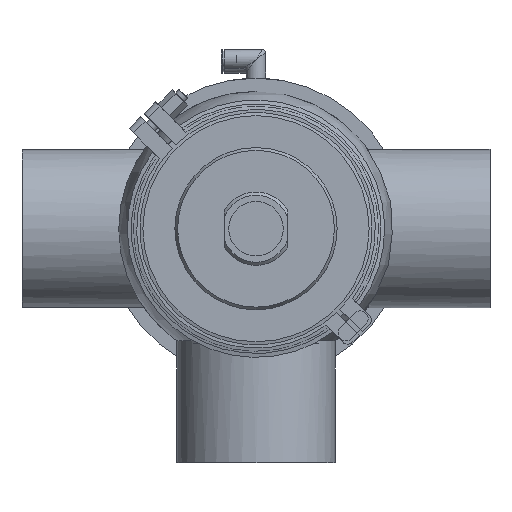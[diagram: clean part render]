
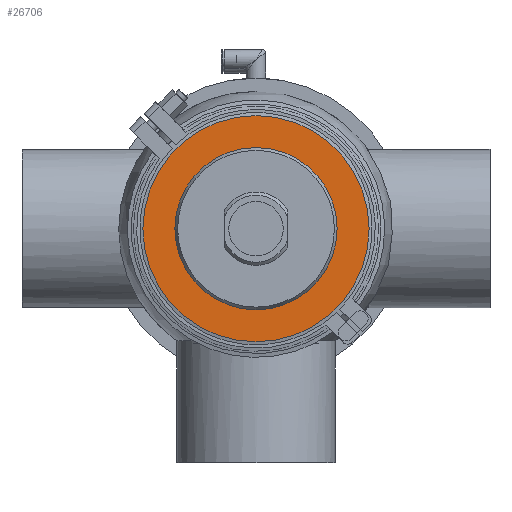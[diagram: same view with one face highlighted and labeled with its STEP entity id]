
A CAD part, front view. The second image highlights one B-rep face of the part: STEP entity #26706.
In plain terms, the highlighted planar face has unit normal (0, -1, 0).
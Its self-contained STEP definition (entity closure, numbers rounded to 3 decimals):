
#813 = EDGE_CURVE ( 'NONE', #55833, #55833, #18572, .T. ) ;
#953 = FACE_OUTER_BOUND ( 'NONE', #11094, .T. ) ;
#2206 = FACE_BOUND ( 'NONE', #6118, .T. ) ;
#2372 = CARTESIAN_POINT ( 'NONE',  ( 0., -13., 0. ) ) ;
#6118 = EDGE_LOOP ( 'NONE', ( #43482 ) ) ;
#7333 = AXIS2_PLACEMENT_3D ( 'NONE', #24669, #44637, #49132 ) ;
#11094 = EDGE_LOOP ( 'NONE', ( #47990 ) ) ;
#11416 = EDGE_CURVE ( 'NONE', #60239, #60239, #54755, .T. ) ;
#12283 = DIRECTION ( 'NONE',  ( 0., 1., 0. ) ) ;
#15697 = PLANE ( 'NONE',  #57812 ) ;
#16123 = CARTESIAN_POINT ( 'NONE',  ( 0., -13., 52. ) ) ;
#18572 = CIRCLE ( 'NONE', #7333, 72.5 ) ;
#24669 = CARTESIAN_POINT ( 'NONE',  ( 0., -13., 0. ) ) ;
#26706 = ADVANCED_FACE ( 'NONE', ( #2206, #953 ), #15697, .T. ) ;
#27014 = AXIS2_PLACEMENT_3D ( 'NONE', #2372, #12283, #31892 ) ;
#31892 = DIRECTION ( 'NONE',  ( 0., 0., 1. ) ) ;
#40483 = CARTESIAN_POINT ( 'NONE',  ( -72.5, -13., 0. ) ) ;
#43482 = ORIENTED_EDGE ( 'NONE', *, *, #11416, .T. ) ;
#44637 = DIRECTION ( 'NONE',  ( 0., 1., 0. ) ) ;
#47105 = CARTESIAN_POINT ( 'NONE',  ( 0., -13., 72.5 ) ) ;
#47990 = ORIENTED_EDGE ( 'NONE', *, *, #813, .F. ) ;
#49132 = DIRECTION ( 'NONE',  ( 0., 0., 1. ) ) ;
#50761 = DIRECTION ( 'NONE',  ( 0., -1., 0. ) ) ;
#54615 = DIRECTION ( 'NONE',  ( 0., 0., -1. ) ) ;
#54755 = CIRCLE ( 'NONE', #27014, 52. ) ;
#55833 = VERTEX_POINT ( 'NONE', #47105 ) ;
#57812 = AXIS2_PLACEMENT_3D ( 'NONE', #40483, #50761, #54615 ) ;
#60239 = VERTEX_POINT ( 'NONE', #16123 ) ;
